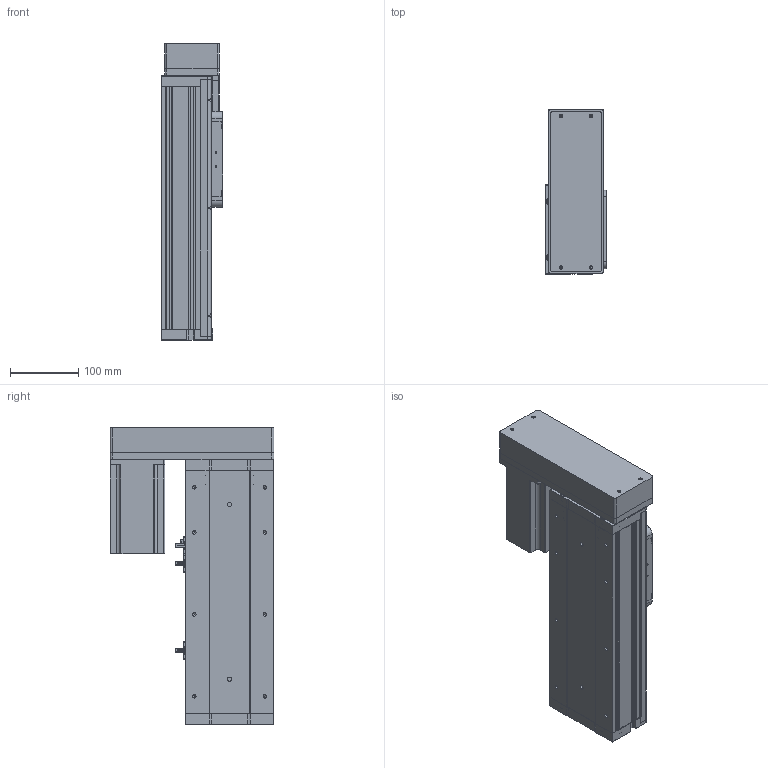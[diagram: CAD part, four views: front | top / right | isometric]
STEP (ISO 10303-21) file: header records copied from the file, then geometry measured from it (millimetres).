
FILE_DESCRIPTION (( 'STEP AP214' ), '1' );
FILE_NAME ('KSD130S-P2010-ML-CR-S150.STEP', '2019-09-24T03:48:12', ( '微软用户' ), ( '微软中国' ), 'SwSTEP 2.0', 'SolidWorks 2014', '' );
FILE_SCHEMA (( 'AUTOMOTIVE_DESIGN' ));
Length unit declared in the file: millimetre
Products named in the file (14): 130宽底板全封闭丝杠-150行程; KSD130S-P2010-ML-CR-S150; 130宽模组马达安装板连板左右折丝杆; 130宽模组保护罩左右折; 感应片130宽全封闭; U倰嫖萇EEㄜSX672; 130遵裔啣揤啣1; 130宽盖板全封闭-150行程; 130宽滚珠螺姆安装板1防护罩; 130宽滚珠螺姆安装板1; 130宽侧板全封闭-150行程; 130宽全封闭马达安装板丝杠; 台达ECMA－C20807AS伺服电机; 130宽全封闭端盖丝杠
Assembly tree (17 placements, depth 2):
  KSD130S-P2010-ML-CR-S150
    130宽底板全封闭丝杠-150行程
    130宽全封闭端盖丝杠
    130宽全封闭马达安装板丝杠
    130宽侧板全封闭-150行程  x2
    130宽滚珠螺姆安装板1
    130宽滚珠螺姆安装板1防护罩
    130宽盖板全封闭-150行程
    130遵裔啣揤啣1  x2
    U倰嫖萇EEㄜSX672  x3
    感应片130宽全封闭
    130宽模组马达安装板连板左右折丝杆
    台达ECMA－C20807AS伺服电机
    130宽模组保护罩左右折
Bounding box: 90 x 240 x 434.5 mm (x, y, z)
Volume: 2392544.8 mm3; surface area: 682062.4 mm2
Topology: 18 solids, 18 shells, 1366 faces, 3736 edges, 2381 vertices
Faces by surface type: plane 611, cylinder 588, cone 167
Entity records: 41130 total; most frequent: DIRECTION 6247, CARTESIAN_POINT 6225, ORIENTED_EDGE 5846, EDGE_CURVE 2923, AXIS2_PLACEMENT_3D 2219, VERTEX_POINT 1911, VECTOR 1809, LINE 1809
